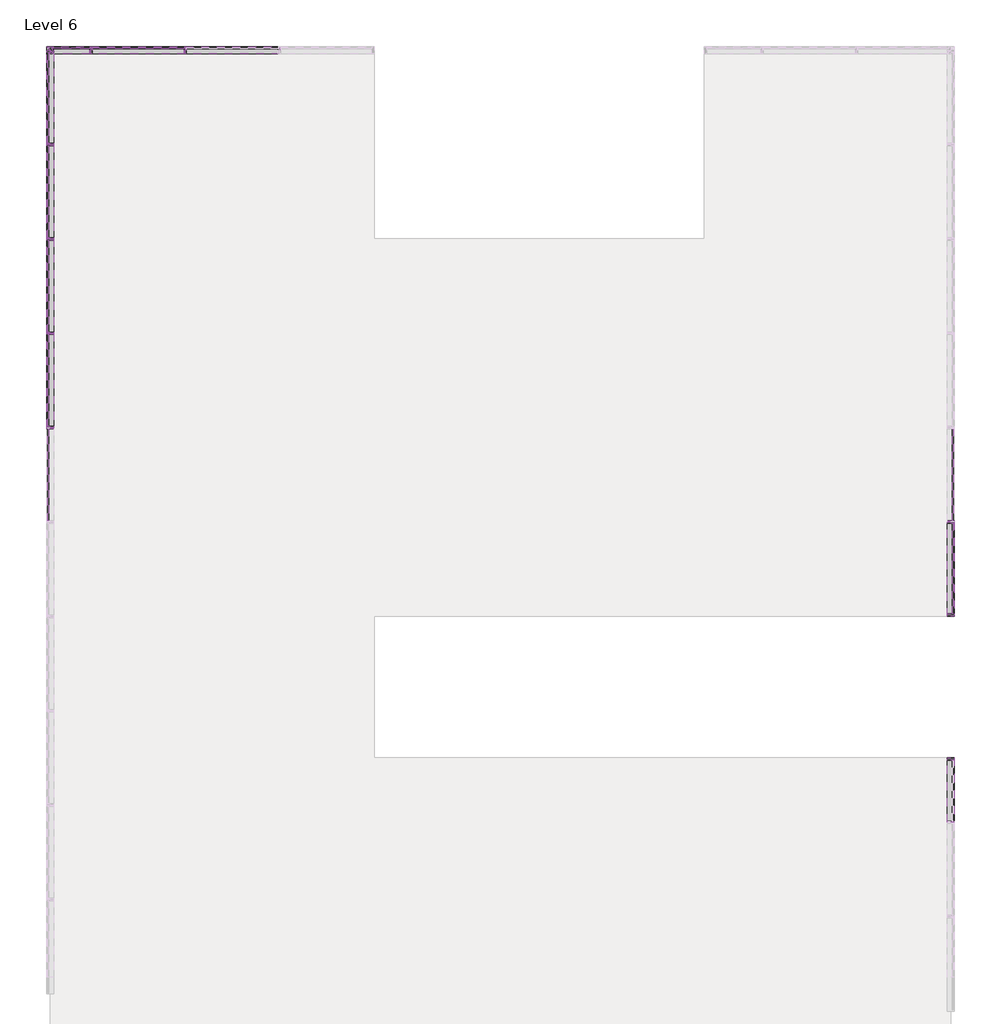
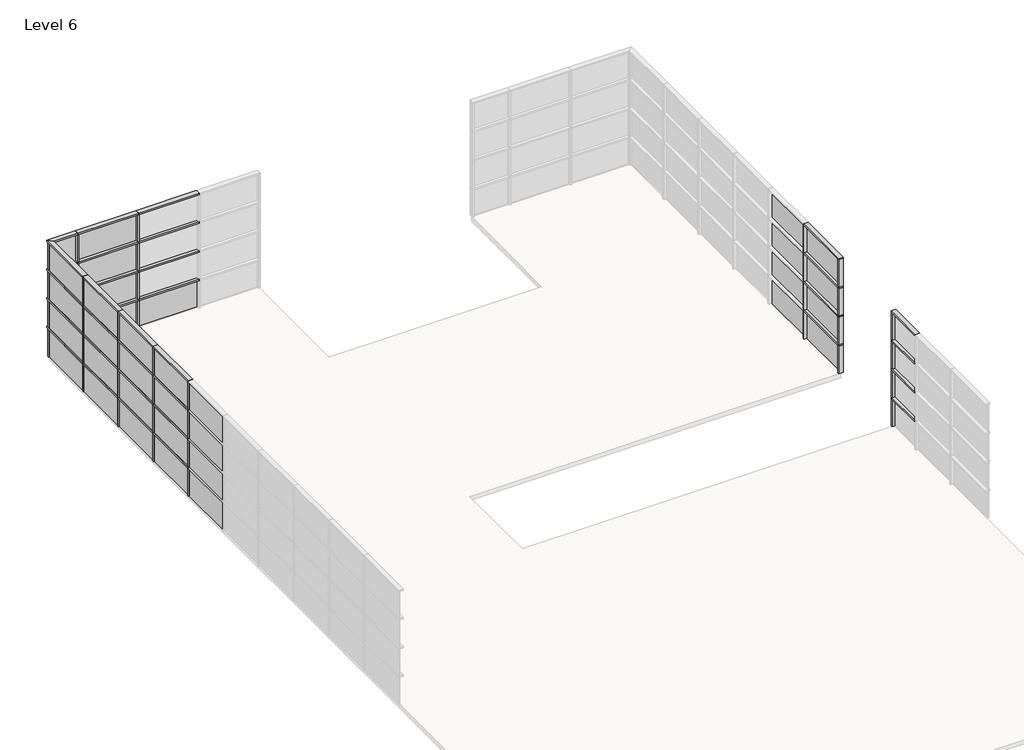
# One storey, part 4 of 5: 80 members, 37 plates.
"""IFC4 building model written with IfcOpenShell, lengths in millimetres."""

from ifc_helpers import new_model, si_unit, origin, place, context, project, spatial, transform, mapped, element, save
from components import rectangular_mullion_50_x_150mm_a053b0ca, rectangular_mullion_50_x_150mm_3a148f0f, rectangular_mullion_50_x_150mm_12a430f9, rectangular_mullion_50_x_150mm_c4a1d10e, rectangular_mullion_50_x_150mm_947845bb, rectangular_mullion_50_x_150mm_5fc4eb71, system_panel_glazed_751a585c, system_panel_glazed_08de6f5f, system_panel_glazed_3868a10e

model = new_model("IFC4")

# Units and contexts
model_context = context("Model", 3, world=origin())
ifc_project = project(units=[si_unit("LENGTHUNIT", "METRE", prefix="MILLI")], contexts=[model_context])

# Site, building, storey
site = spatial("IfcSite", under=ifc_project)
building = spatial("IfcBuilding", under=site)
storey = spatial("IfcBuildingStorey", under=building, Name="Level 6", Elevation=20000.0)

# Members
placement = place(None, origin())
rectangular_mullion_50_x_150mm_shape = rectangular_mullion_50_x_150mm_a053b0ca(model_context)
element("IfcMember", 1, ObjectType="Rectangular Mullion : 50 x 150mm", at=placement, inside=storey, context=model_context, shape_type="MappedRepresentation", body=[
    mapped(rectangular_mullion_50_x_150mm_shape, transform((-5587.173406, 6375.9839566, 20025.0), x_axis=(0.0, -1.0, 0.0), y_axis=(-1.0, 0.0, 0.0), z_axis=(0.0, 0.0, -0.9999999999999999))),
])
element("IfcMember", 2, ObjectType="Rectangular Mullion : 50 x 150mm", at=placement, inside=storey, context=model_context, shape_type="MappedRepresentation", body=[
    mapped(rectangular_mullion_50_x_150mm_shape, transform((-5587.173406, 6375.9839566, 21025.0), x_axis=(0.0, -1.0, 0.0), y_axis=(-1.0, 0.0, 0.0), z_axis=(0.0, 0.0, -0.9999999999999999))),
])
element("IfcMember", 3, ObjectType="Rectangular Mullion : 50 x 150mm", at=placement, inside=storey, context=model_context, shape_type="MappedRepresentation", body=[
    mapped(rectangular_mullion_50_x_150mm_shape, transform((-5587.173406, 6375.9839566, 22025.0), x_axis=(0.0, -1.0, 0.0), y_axis=(-1.0, 0.0, 0.0), z_axis=(0.0, 0.0, -0.9999999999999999))),
])
element("IfcMember", 4, ObjectType="Rectangular Mullion : 50 x 150mm", at=placement, inside=storey, context=model_context, shape_type="MappedRepresentation", body=[
    mapped(rectangular_mullion_50_x_150mm_shape, transform((-5587.173406, 6375.9839566, 23025.0), x_axis=(0.0, -1.0, 0.0), y_axis=(-1.0, 0.0, 0.0), z_axis=(0.0, 0.0, -0.9999999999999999))),
])
element("IfcMember", 5, ObjectType="Rectangular Mullion : 50 x 150mm", at=placement, inside=storey, context=model_context, shape_type="MappedRepresentation", body=[
    mapped(rectangular_mullion_50_x_150mm_shape, transform((-5587.173406, 4375.9839566, 20025.0), x_axis=(0.0, -1.0, 0.0), y_axis=(-1.0, 0.0, 0.0), z_axis=(0.0, 0.0, -0.9999999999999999))),
])
element("IfcMember", 6, ObjectType="Rectangular Mullion : 50 x 150mm", at=placement, inside=storey, context=model_context, shape_type="MappedRepresentation", body=[
    mapped(rectangular_mullion_50_x_150mm_shape, transform((-5587.173406, 4375.9839566, 21025.0), x_axis=(0.0, -1.0, 0.0), y_axis=(-1.0, 0.0, 0.0), z_axis=(0.0, 0.0, -0.9999999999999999))),
])
element("IfcMember", 7, ObjectType="Rectangular Mullion : 50 x 150mm", at=placement, inside=storey, context=model_context, shape_type="MappedRepresentation", body=[
    mapped(rectangular_mullion_50_x_150mm_shape, transform((-5587.173406, 4375.9839566, 22025.0), x_axis=(0.0, -1.0, 0.0), y_axis=(-1.0, 0.0, 0.0), z_axis=(0.0, 0.0, -0.9999999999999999))),
])
element("IfcMember", 8, ObjectType="Rectangular Mullion : 50 x 150mm", at=placement, inside=storey, context=model_context, shape_type="MappedRepresentation", body=[
    mapped(rectangular_mullion_50_x_150mm_shape, transform((-5587.173406, 4375.9839566, 23025.0), x_axis=(0.0, -1.0, 0.0), y_axis=(-1.0, 0.0, 0.0), z_axis=(0.0, 0.0, -0.9999999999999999))),
])
element("IfcMember", 9, ObjectType="Rectangular Mullion : 50 x 150mm", at=placement, inside=storey, context=model_context, shape_type="MappedRepresentation", body=[
    mapped(rectangular_mullion_50_x_150mm_shape, transform((-5587.173406, 2375.9839566, 20025.0), x_axis=(0.0, -1.0, 0.0), y_axis=(-1.0, 0.0, 0.0), z_axis=(0.0, 0.0, -0.9999999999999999))),
])
element("IfcMember", 10, ObjectType="Rectangular Mullion : 50 x 150mm", at=placement, inside=storey, context=model_context, shape_type="MappedRepresentation", body=[
    mapped(rectangular_mullion_50_x_150mm_shape, transform((-5587.173406, 2375.9839566, 21025.0), x_axis=(0.0, -1.0, 0.0), y_axis=(-1.0, 0.0, 0.0), z_axis=(0.0, 0.0, -0.9999999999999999))),
])
element("IfcMember", 11, ObjectType="Rectangular Mullion : 50 x 150mm", at=placement, inside=storey, context=model_context, shape_type="MappedRepresentation", body=[
    mapped(rectangular_mullion_50_x_150mm_shape, transform((-5587.173406, 2375.9839566, 22025.0), x_axis=(0.0, -1.0, 0.0), y_axis=(-1.0, 0.0, 0.0), z_axis=(0.0, 0.0, -0.9999999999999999))),
])
element("IfcMember", 12, ObjectType="Rectangular Mullion : 50 x 150mm", at=placement, inside=storey, context=model_context, shape_type="MappedRepresentation", body=[
    mapped(rectangular_mullion_50_x_150mm_shape, transform((-5587.173406, 2375.9839566, 23025.0), x_axis=(0.0, -1.0, 0.0), y_axis=(-1.0, 0.0, 0.0), z_axis=(0.0, 0.0, -0.9999999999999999))),
])
element("IfcMember", 13, ObjectType="Rectangular Mullion : 50 x 150mm", at=placement, inside=storey, context=model_context, shape_type="MappedRepresentation", body=[
    mapped(rectangular_mullion_50_x_150mm_shape, transform((-5587.173406, 375.9839566, 20025.0), x_axis=(0.0, -1.0, 0.0), y_axis=(-1.0, 0.0, 0.0), z_axis=(0.0, 0.0, -0.9999999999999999))),
])
element("IfcMember", 14, ObjectType="Rectangular Mullion : 50 x 150mm", at=placement, inside=storey, context=model_context, shape_type="MappedRepresentation", body=[
    mapped(rectangular_mullion_50_x_150mm_shape, transform((-5587.173406, 375.9839566, 21025.0), x_axis=(0.0, -1.0, 0.0), y_axis=(-1.0, 0.0, 0.0), z_axis=(0.0, 0.0, -0.9999999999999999))),
])
element("IfcMember", 15, ObjectType="Rectangular Mullion : 50 x 150mm", at=placement, inside=storey, context=model_context, shape_type="MappedRepresentation", body=[
    mapped(rectangular_mullion_50_x_150mm_shape, transform((-5587.173406, 375.9839566, 22025.0), x_axis=(0.0, -1.0, 0.0), y_axis=(-1.0, 0.0, 0.0), z_axis=(0.0, 0.0, -0.9999999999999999))),
])
element("IfcMember", 16, ObjectType="Rectangular Mullion : 50 x 150mm", at=placement, inside=storey, context=model_context, shape_type="MappedRepresentation", body=[
    mapped(rectangular_mullion_50_x_150mm_shape, transform((-5587.173406, 375.9839566, 23025.0), x_axis=(0.0, -1.0, 0.0), y_axis=(-1.0, 0.0, 0.0), z_axis=(0.0, 0.0, -0.9999999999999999))),
])
element("IfcMember", 17, ObjectType="Rectangular Mullion : 50 x 150mm", at=placement, inside=storey, context=model_context, shape_type="MappedRepresentation", body=[
    mapped(rectangular_mullion_50_x_150mm_shape, transform((-4721.580781, 8375.9839566, 20025.0), x_axis=(-1.0, 0.0, 0.0), y_axis=(0.0, 1.0, 0.0), z_axis=(0.0, 0.0, -0.9999999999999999))),
])
element("IfcMember", 18, ObjectType="Rectangular Mullion : 50 x 150mm", at=placement, inside=storey, context=model_context, shape_type="MappedRepresentation", body=[
    mapped(rectangular_mullion_50_x_150mm_shape, transform((-4721.580781, 8375.9839566, 21025.0), x_axis=(-1.0, 0.0, 0.0), y_axis=(0.0, 1.0, 0.0), z_axis=(0.0, 0.0, -0.9999999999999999))),
])
element("IfcMember", 19, ObjectType="Rectangular Mullion : 50 x 150mm", at=placement, inside=storey, context=model_context, shape_type="MappedRepresentation", body=[
    mapped(rectangular_mullion_50_x_150mm_shape, transform((-4721.580781, 8375.9839566, 22025.0), x_axis=(-1.0, 0.0, 0.0), y_axis=(0.0, 1.0, 0.0), z_axis=(0.0, 0.0, -0.9999999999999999))),
])
element("IfcMember", 20, ObjectType="Rectangular Mullion : 50 x 150mm", at=placement, inside=storey, context=model_context, shape_type="MappedRepresentation", body=[
    mapped(rectangular_mullion_50_x_150mm_shape, transform((-4721.580781, 8375.9839566, 23025.0), x_axis=(-1.0, 0.0, 0.0), y_axis=(0.0, 1.0, 0.0), z_axis=(0.0, 0.0, -0.9999999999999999))),
])
element("IfcMember", 21, ObjectType="Rectangular Mullion : 50 x 150mm", at=placement, inside=storey, context=model_context, shape_type="MappedRepresentation", body=[
    mapped(rectangular_mullion_50_x_150mm_shape, transform((-2721.580781, 8375.9839566, 20025.0), x_axis=(-1.0, 0.0, 0.0), y_axis=(0.0, 1.0, 0.0), z_axis=(0.0, 0.0, -0.9999999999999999))),
])
element("IfcMember", 22, ObjectType="Rectangular Mullion : 50 x 150mm", at=placement, inside=storey, context=model_context, shape_type="MappedRepresentation", body=[
    mapped(rectangular_mullion_50_x_150mm_shape, transform((-2721.580781, 8375.9839566, 21025.0), x_axis=(-1.0, 0.0, 0.0), y_axis=(0.0, 1.0, 0.0), z_axis=(0.0, 0.0, -0.9999999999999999))),
])
element("IfcMember", 23, ObjectType="Rectangular Mullion : 50 x 150mm", at=placement, inside=storey, context=model_context, shape_type="MappedRepresentation", body=[
    mapped(rectangular_mullion_50_x_150mm_shape, transform((-2721.580781, 8375.9839566, 22025.0), x_axis=(-1.0, 0.0, 0.0), y_axis=(0.0, 1.0, 0.0), z_axis=(0.0, 0.0, -0.9999999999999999))),
])
element("IfcMember", 24, ObjectType="Rectangular Mullion : 50 x 150mm", at=placement, inside=storey, context=model_context, shape_type="MappedRepresentation", body=[
    mapped(rectangular_mullion_50_x_150mm_shape, transform((-2721.580781, 8375.9839566, 23025.0), x_axis=(-1.0, 0.0, 0.0), y_axis=(0.0, 1.0, 0.0), z_axis=(0.0, 0.0, -0.9999999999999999))),
])
element("IfcMember", 25, ObjectType="Rectangular Mullion : 50 x 150mm", at=placement, inside=storey, context=model_context, shape_type="MappedRepresentation", body=[
    mapped(rectangular_mullion_50_x_150mm_shape, transform((13503.2660975, -1624.0160434, 20025.0), x_axis=(0.0, 1.0, 0.0), y_axis=(1.0, 0.0, 0.0), z_axis=(0.0, 0.0, -0.9999999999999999))),
])
element("IfcMember", 26, ObjectType="Rectangular Mullion : 50 x 150mm", at=placement, inside=storey, context=model_context, shape_type="MappedRepresentation", body=[
    mapped(rectangular_mullion_50_x_150mm_shape, transform((13503.2660975, -1624.0160434, 21025.0), x_axis=(0.0, 1.0, 0.0), y_axis=(1.0, 0.0, 0.0), z_axis=(0.0, 0.0, -0.9999999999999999))),
])
element("IfcMember", 27, ObjectType="Rectangular Mullion : 50 x 150mm", at=placement, inside=storey, context=model_context, shape_type="MappedRepresentation", body=[
    mapped(rectangular_mullion_50_x_150mm_shape, transform((13503.2660975, -1624.0160434, 22025.0), x_axis=(0.0, 1.0, 0.0), y_axis=(1.0, 0.0, 0.0), z_axis=(0.0, 0.0, -0.9999999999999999))),
])
element("IfcMember", 28, ObjectType="Rectangular Mullion : 50 x 150mm", at=placement, inside=storey, context=model_context, shape_type="MappedRepresentation", body=[
    mapped(rectangular_mullion_50_x_150mm_shape, transform((13503.2660975, -1624.0160434, 23025.0), x_axis=(0.0, 1.0, 0.0), y_axis=(1.0, 0.0, 0.0), z_axis=(0.0, 0.0, -0.9999999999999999))),
])
rectangular_mullion_50_x_150mm_2_shape = rectangular_mullion_50_x_150mm_3a148f0f(model_context)
element("IfcMember", 29, ObjectType="Rectangular Mullion : 50 x 150mm", at=placement, inside=storey, context=model_context, shape_type="MappedRepresentation", body=[
    mapped(rectangular_mullion_50_x_150mm_2_shape, transform((13503.2660975, -1624.0160434, 21000.0), x_axis=(0.0, 0.0, 1.0), y_axis=(1.0, 0.0, 0.0), z_axis=(0.0, 0.9999999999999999, 0.0))),
])
element("IfcMember", 30, ObjectType="Rectangular Mullion : 50 x 150mm", at=placement, inside=storey, context=model_context, shape_type="MappedRepresentation", body=[
    mapped(rectangular_mullion_50_x_150mm_2_shape, transform((13503.2660975, -1624.0160434, 22000.0), x_axis=(0.0, 0.0, 1.0), y_axis=(1.0, 0.0, 0.0), z_axis=(0.0, 0.9999999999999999, 0.0))),
])
element("IfcMember", 31, ObjectType="Rectangular Mullion : 50 x 150mm", at=placement, inside=storey, context=model_context, shape_type="MappedRepresentation", body=[
    mapped(rectangular_mullion_50_x_150mm_2_shape, transform((13503.2660975, -1624.0160434, 23000.0), x_axis=(0.0, 0.0, 1.0), y_axis=(1.0, 0.0, 0.0), z_axis=(0.0, 1.0, 0.0))),
])
element("IfcMember", 32, ObjectType="Rectangular Mullion : 50 x 150mm", at=placement, inside=storey, context=model_context, shape_type="MappedRepresentation", body=[
    mapped(rectangular_mullion_50_x_150mm_2_shape, transform((13503.2660975, -1624.0160434, 24000.0), x_axis=(0.0, 0.0, 1.0), y_axis=(1.0, 0.0, 0.0), z_axis=(0.0, 1.0, 0.0))),
])
element("IfcMember", 33, ObjectType="Rectangular Mullion : 50 x 150mm", at=placement, inside=storey, context=model_context, shape_type="MappedRepresentation", body=[
    mapped(rectangular_mullion_50_x_150mm_2_shape, transform((-5587.173406, 4375.9839566, 21000.0), x_axis=(0.0, 0.0, 1.0), y_axis=(-1.0, 0.0, 0.0), z_axis=(0.0, -1.0, 0.0))),
])
element("IfcMember", 34, ObjectType="Rectangular Mullion : 50 x 150mm", at=placement, inside=storey, context=model_context, shape_type="MappedRepresentation", body=[
    mapped(rectangular_mullion_50_x_150mm_2_shape, transform((-5587.173406, 2375.9839566, 21000.0), x_axis=(0.0, 0.0, 1.0), y_axis=(-1.0, 0.0, 0.0), z_axis=(0.0, -1.0, 0.0))),
])
element("IfcMember", 35, ObjectType="Rectangular Mullion : 50 x 150mm", at=placement, inside=storey, context=model_context, shape_type="MappedRepresentation", body=[
    mapped(rectangular_mullion_50_x_150mm_2_shape, transform((-5587.173406, 375.9839566, 21000.0), x_axis=(0.0, 0.0, 1.0), y_axis=(-1.0, 0.0, 0.0), z_axis=(0.0, -1.0, 0.0))),
])
element("IfcMember", 36, ObjectType="Rectangular Mullion : 50 x 150mm", at=placement, inside=storey, context=model_context, shape_type="MappedRepresentation", body=[
    mapped(rectangular_mullion_50_x_150mm_2_shape, transform((-5587.173406, 4375.9839566, 22000.0), x_axis=(0.0, 0.0, 1.0), y_axis=(-1.0, 0.0, 0.0), z_axis=(0.0, -1.0, 0.0))),
])
element("IfcMember", 37, ObjectType="Rectangular Mullion : 50 x 150mm", at=placement, inside=storey, context=model_context, shape_type="MappedRepresentation", body=[
    mapped(rectangular_mullion_50_x_150mm_2_shape, transform((-5587.173406, 2375.9839566, 22000.0), x_axis=(0.0, 0.0, 1.0), y_axis=(-1.0, 0.0, 0.0), z_axis=(0.0, -1.0, 0.0))),
])
element("IfcMember", 38, ObjectType="Rectangular Mullion : 50 x 150mm", at=placement, inside=storey, context=model_context, shape_type="MappedRepresentation", body=[
    mapped(rectangular_mullion_50_x_150mm_2_shape, transform((-5587.173406, 375.9839566, 22000.0), x_axis=(0.0, 0.0, 1.0), y_axis=(-1.0, 0.0, 0.0), z_axis=(0.0, -1.0, 0.0))),
])
element("IfcMember", 39, ObjectType="Rectangular Mullion : 50 x 150mm", at=placement, inside=storey, context=model_context, shape_type="MappedRepresentation", body=[
    mapped(rectangular_mullion_50_x_150mm_2_shape, transform((-5587.173406, 4375.9839566, 23000.0), x_axis=(0.0, 0.0, 1.0), y_axis=(-1.0, 0.0, 0.0), z_axis=(0.0, -1.0, 0.0))),
])
element("IfcMember", 40, ObjectType="Rectangular Mullion : 50 x 150mm", at=placement, inside=storey, context=model_context, shape_type="MappedRepresentation", body=[
    mapped(rectangular_mullion_50_x_150mm_2_shape, transform((-5587.173406, 2375.9839566, 23000.0), x_axis=(0.0, 0.0, 1.0), y_axis=(-1.0, 0.0, 0.0), z_axis=(0.0, -1.0, 0.0))),
])
element("IfcMember", 41, ObjectType="Rectangular Mullion : 50 x 150mm", at=placement, inside=storey, context=model_context, shape_type="MappedRepresentation", body=[
    mapped(rectangular_mullion_50_x_150mm_2_shape, transform((-5587.173406, 375.9839566, 23000.0), x_axis=(0.0, 0.0, 1.0), y_axis=(-1.0, 0.0, 0.0), z_axis=(0.0, -1.0, 0.0))),
])
element("IfcMember", 42, ObjectType="Rectangular Mullion : 50 x 150mm", at=placement, inside=storey, context=model_context, shape_type="MappedRepresentation", body=[
    mapped(rectangular_mullion_50_x_150mm_2_shape, transform((-5587.173406, 4375.9839566, 24000.0), x_axis=(0.0, 0.0, 1.0), y_axis=(-1.0, 0.0, 0.0), z_axis=(0.0, -1.0, 0.0))),
])
element("IfcMember", 43, ObjectType="Rectangular Mullion : 50 x 150mm", at=placement, inside=storey, context=model_context, shape_type="MappedRepresentation", body=[
    mapped(rectangular_mullion_50_x_150mm_2_shape, transform((-5587.173406, 2375.9839566, 24000.0), x_axis=(0.0, 0.0, 1.0), y_axis=(-1.0, 0.0, 0.0), z_axis=(0.0, -1.0, 0.0))),
])
element("IfcMember", 44, ObjectType="Rectangular Mullion : 50 x 150mm", at=placement, inside=storey, context=model_context, shape_type="MappedRepresentation", body=[
    mapped(rectangular_mullion_50_x_150mm_2_shape, transform((-5587.173406, 375.9839566, 24000.0), x_axis=(0.0, 0.0, 1.0), y_axis=(-1.0, 0.0, 0.0), z_axis=(0.0, -1.0, 0.0))),
])
element("IfcMember", 45, ObjectType="Rectangular Mullion : 50 x 150mm", at=placement, inside=storey, context=model_context, shape_type="MappedRepresentation", body=[
    mapped(rectangular_mullion_50_x_150mm_2_shape, transform((-2721.580781, 8375.9839566, 21000.0), x_axis=(0.0, 0.0, 1.0), y_axis=(0.0, 1.0, 0.0), z_axis=(-1.0, 0.0, 0.0))),
])
element("IfcMember", 46, ObjectType="Rectangular Mullion : 50 x 150mm", at=placement, inside=storey, context=model_context, shape_type="MappedRepresentation", body=[
    mapped(rectangular_mullion_50_x_150mm_2_shape, transform((-4721.580781, 8375.9839566, 21000.0), x_axis=(0.0, 0.0, 1.0), y_axis=(0.0, 1.0, 0.0), z_axis=(-1.0, 0.0, 0.0))),
])
element("IfcMember", 47, ObjectType="Rectangular Mullion : 50 x 150mm", at=placement, inside=storey, context=model_context, shape_type="MappedRepresentation", body=[
    mapped(rectangular_mullion_50_x_150mm_2_shape, transform((-2721.580781, 8375.9839566, 22000.0), x_axis=(0.0, 0.0, 1.0), y_axis=(0.0, 1.0, 0.0), z_axis=(-1.0, 0.0, 0.0))),
])
element("IfcMember", 48, ObjectType="Rectangular Mullion : 50 x 150mm", at=placement, inside=storey, context=model_context, shape_type="MappedRepresentation", body=[
    mapped(rectangular_mullion_50_x_150mm_2_shape, transform((-4721.580781, 8375.9839566, 22000.0), x_axis=(0.0, 0.0, 1.0), y_axis=(0.0, 1.0, 0.0), z_axis=(-1.0, 0.0, 0.0))),
])
element("IfcMember", 49, ObjectType="Rectangular Mullion : 50 x 150mm", at=placement, inside=storey, context=model_context, shape_type="MappedRepresentation", body=[
    mapped(rectangular_mullion_50_x_150mm_2_shape, transform((-2721.580781, 8375.9839566, 23000.0), x_axis=(0.0, 0.0, 1.0), y_axis=(0.0, 1.0, 0.0), z_axis=(-1.0, 0.0, 0.0))),
])
element("IfcMember", 50, ObjectType="Rectangular Mullion : 50 x 150mm", at=placement, inside=storey, context=model_context, shape_type="MappedRepresentation", body=[
    mapped(rectangular_mullion_50_x_150mm_2_shape, transform((-4721.580781, 8375.9839566, 23000.0), x_axis=(0.0, 0.0, 1.0), y_axis=(0.0, 1.0, 0.0), z_axis=(-1.0, 0.0, 0.0))),
])
element("IfcMember", 51, ObjectType="Rectangular Mullion : 50 x 150mm", at=placement, inside=storey, context=model_context, shape_type="MappedRepresentation", body=[
    mapped(rectangular_mullion_50_x_150mm_2_shape, transform((-2721.580781, 8375.9839566, 24000.0), x_axis=(0.0, 0.0, 1.0), y_axis=(0.0, 1.0, 0.0), z_axis=(-1.0, 0.0, 0.0))),
])
element("IfcMember", 52, ObjectType="Rectangular Mullion : 50 x 150mm", at=placement, inside=storey, context=model_context, shape_type="MappedRepresentation", body=[
    mapped(rectangular_mullion_50_x_150mm_2_shape, transform((-4721.580781, 8375.9839566, 24000.0), x_axis=(0.0, 0.0, 1.0), y_axis=(0.0, 1.0, 0.0), z_axis=(-1.0, 0.0, 0.0))),
])
rectangular_mullion_50_x_150mm_3_shape = rectangular_mullion_50_x_150mm_12a430f9(model_context)
element("IfcMember", 53, ObjectType="Rectangular Mullion : 50 x 150mm", at=placement, inside=storey, context=model_context, shape_type="MappedRepresentation", body=[
    mapped(rectangular_mullion_50_x_150mm_3_shape, transform((-5587.173406, 8375.9839566, 20975.0), x_axis=(0.0, 1.0, 0.0), y_axis=(-1.0, 0.0, 0.0), z_axis=(0.0, 0.0, 0.9999999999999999))),
])
element("IfcMember", 54, ObjectType="Rectangular Mullion : 50 x 150mm", at=placement, inside=storey, context=model_context, shape_type="MappedRepresentation", body=[
    mapped(rectangular_mullion_50_x_150mm_3_shape, transform((-5587.173406, 8375.9839566, 21975.0), x_axis=(0.0, 1.0, 0.0), y_axis=(-1.0, 0.0, 0.0), z_axis=(0.0, 0.0, 0.9999999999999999))),
])
element("IfcMember", 55, ObjectType="Rectangular Mullion : 50 x 150mm", at=placement, inside=storey, context=model_context, shape_type="MappedRepresentation", body=[
    mapped(rectangular_mullion_50_x_150mm_3_shape, transform((-5587.173406, 8375.9839566, 22975.0), x_axis=(0.0, 1.0, 0.0), y_axis=(-1.0, 0.0, 0.0), z_axis=(0.0, 0.0, 0.9999999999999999))),
])
element("IfcMember", 56, ObjectType="Rectangular Mullion : 50 x 150mm", at=placement, inside=storey, context=model_context, shape_type="MappedRepresentation", body=[
    mapped(rectangular_mullion_50_x_150mm_3_shape, transform((-5587.173406, 8375.9839566, 23975.0), x_axis=(0.0, 1.0, 0.0), y_axis=(-1.0, 0.0, 0.0), z_axis=(0.0, 0.0, 0.9999999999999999))),
])
element("IfcMember", 57, ObjectType="Rectangular Mullion : 50 x 150mm", at=placement, inside=storey, context=model_context, shape_type="MappedRepresentation", body=[
    mapped(rectangular_mullion_50_x_150mm_3_shape, transform((13503.2660975, -3624.0160434, 20975.0), x_axis=(0.0, -1.0, 0.0), y_axis=(1.0, 0.0, 0.0), z_axis=(0.0, 0.0, 0.9999999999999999))),
])
element("IfcMember", 58, ObjectType="Rectangular Mullion : 50 x 150mm", at=placement, inside=storey, context=model_context, shape_type="MappedRepresentation", body=[
    mapped(rectangular_mullion_50_x_150mm_3_shape, transform((13503.2660975, -3624.0160434, 21975.0), x_axis=(0.0, -1.0, 0.0), y_axis=(1.0, 0.0, 0.0), z_axis=(0.0, 0.0, 0.9999999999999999))),
])
element("IfcMember", 59, ObjectType="Rectangular Mullion : 50 x 150mm", at=placement, inside=storey, context=model_context, shape_type="MappedRepresentation", body=[
    mapped(rectangular_mullion_50_x_150mm_3_shape, transform((13503.2660975, -3624.0160434, 22975.0), x_axis=(0.0, -1.0, 0.0), y_axis=(1.0, 0.0, 0.0), z_axis=(0.0, 0.0, 0.9999999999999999))),
])
element("IfcMember", 60, ObjectType="Rectangular Mullion : 50 x 150mm", at=placement, inside=storey, context=model_context, shape_type="MappedRepresentation", body=[
    mapped(rectangular_mullion_50_x_150mm_3_shape, transform((13503.2660975, -3624.0160434, 23975.0), x_axis=(0.0, -1.0, 0.0), y_axis=(1.0, 0.0, 0.0), z_axis=(0.0, 0.0, 0.9999999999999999))),
])
element("IfcMember", 61, ObjectType="Rectangular Mullion : 50 x 150mm", at=placement, inside=storey, context=model_context, shape_type="MappedRepresentation", body=[
    mapped(rectangular_mullion_50_x_150mm_3_shape, transform((-5587.173406, 8375.9839566, 20025.0), x_axis=(-1.0, 0.0, 0.0), y_axis=(0.0, 1.0, 0.0), z_axis=(0.0, 0.0, -0.9999999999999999))),
])
element("IfcMember", 62, ObjectType="Rectangular Mullion : 50 x 150mm", at=placement, inside=storey, context=model_context, shape_type="MappedRepresentation", body=[
    mapped(rectangular_mullion_50_x_150mm_3_shape, transform((-5587.173406, 8375.9839566, 21025.0), x_axis=(-1.0, 0.0, 0.0), y_axis=(0.0, 1.0, 0.0), z_axis=(0.0, 0.0, -0.9999999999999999))),
])
element("IfcMember", 63, ObjectType="Rectangular Mullion : 50 x 150mm", at=placement, inside=storey, context=model_context, shape_type="MappedRepresentation", body=[
    mapped(rectangular_mullion_50_x_150mm_3_shape, transform((-5587.173406, 8375.9839566, 22025.0), x_axis=(-1.0, 0.0, 0.0), y_axis=(0.0, 1.0, 0.0), z_axis=(0.0, 0.0, -0.9999999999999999))),
])
element("IfcMember", 64, ObjectType="Rectangular Mullion : 50 x 150mm", at=placement, inside=storey, context=model_context, shape_type="MappedRepresentation", body=[
    mapped(rectangular_mullion_50_x_150mm_3_shape, transform((-5587.173406, 8375.9839566, 23025.0), x_axis=(-1.0, 0.0, 0.0), y_axis=(0.0, 1.0, 0.0), z_axis=(0.0, 0.0, -0.9999999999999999))),
])
element("IfcMember", 65, ObjectType="Rectangular Mullion : 50 x 150mm", at=placement, inside=storey, context=model_context, shape_type="MappedRepresentation", body=[
    mapped(rectangular_mullion_50_x_150mm_3_shape, transform((13503.2660975, -6624.0160434, 20025.0), x_axis=(0.0, 1.0, 0.0), y_axis=(1.0, 0.0, 0.0), z_axis=(0.0, 0.0, -0.9999999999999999))),
])
element("IfcMember", 66, ObjectType="Rectangular Mullion : 50 x 150mm", at=placement, inside=storey, context=model_context, shape_type="MappedRepresentation", body=[
    mapped(rectangular_mullion_50_x_150mm_3_shape, transform((13503.2660975, -6624.0160434, 21025.0), x_axis=(0.0, 1.0, 0.0), y_axis=(1.0, 0.0, 0.0), z_axis=(0.0, 0.0, -0.9999999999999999))),
])
element("IfcMember", 67, ObjectType="Rectangular Mullion : 50 x 150mm", at=placement, inside=storey, context=model_context, shape_type="MappedRepresentation", body=[
    mapped(rectangular_mullion_50_x_150mm_3_shape, transform((13503.2660975, -6624.0160434, 22025.0), x_axis=(0.0, 1.0, 0.0), y_axis=(1.0, 0.0, 0.0), z_axis=(0.0, 0.0, -0.9999999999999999))),
])
element("IfcMember", 68, ObjectType="Rectangular Mullion : 50 x 150mm", at=placement, inside=storey, context=model_context, shape_type="MappedRepresentation", body=[
    mapped(rectangular_mullion_50_x_150mm_3_shape, transform((13503.2660975, -6624.0160434, 23025.0), x_axis=(0.0, 1.0, 0.0), y_axis=(1.0, 0.0, 0.0), z_axis=(0.0, 0.0, -0.9999999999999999))),
])
rectangular_mullion_50_x_150mm_4_shape = rectangular_mullion_50_x_150mm_c4a1d10e(model_context)
element("IfcMember", 69, ObjectType="Rectangular Mullion : 50 x 150mm", at=placement, inside=storey, context=model_context, shape_type="MappedRepresentation", body=[
    mapped(rectangular_mullion_50_x_150mm_4_shape, transform((-5587.173406, 8375.9839566, 21000.0), x_axis=(0.0, 0.0, 1.0), y_axis=(0.0, 1.0, 0.0), z_axis=(-1.0, 0.0, 0.0))),
])
element("IfcMember", 70, ObjectType="Rectangular Mullion : 50 x 150mm", at=placement, inside=storey, context=model_context, shape_type="MappedRepresentation", body=[
    mapped(rectangular_mullion_50_x_150mm_4_shape, transform((-5587.173406, 8375.9839566, 22000.0), x_axis=(0.0, 0.0, 1.0), y_axis=(0.0, 1.0, 0.0), z_axis=(-1.0, 0.0, 0.0))),
])
element("IfcMember", 71, ObjectType="Rectangular Mullion : 50 x 150mm", at=placement, inside=storey, context=model_context, shape_type="MappedRepresentation", body=[
    mapped(rectangular_mullion_50_x_150mm_4_shape, transform((-5587.173406, 8375.9839566, 23000.0), x_axis=(0.0, 0.0, 1.0), y_axis=(0.0, 1.0, 0.0), z_axis=(-1.0, 0.0, 0.0))),
])
element("IfcMember", 72, ObjectType="Rectangular Mullion : 50 x 150mm", at=placement, inside=storey, context=model_context, shape_type="MappedRepresentation", body=[
    mapped(rectangular_mullion_50_x_150mm_4_shape, transform((-5587.173406, 8375.9839566, 24000.0), x_axis=(0.0, 0.0, 1.0), y_axis=(0.0, 1.0, 0.0), z_axis=(-1.0, 0.0, 0.0))),
])
rectangular_mullion_50_x_150mm_5_shape = rectangular_mullion_50_x_150mm_947845bb(model_context)
element("IfcMember", 73, ObjectType="Rectangular Mullion : 50 x 150mm", at=placement, inside=storey, context=model_context, shape_type="MappedRepresentation", body=[
    mapped(rectangular_mullion_50_x_150mm_5_shape, transform((-5587.173406, 6375.9839566, 21000.0), x_axis=(0.0, 0.0, 1.0), y_axis=(-1.0, 0.0, 0.0), z_axis=(0.0, -1.0, 0.0))),
])
element("IfcMember", 74, ObjectType="Rectangular Mullion : 50 x 150mm", at=placement, inside=storey, context=model_context, shape_type="MappedRepresentation", body=[
    mapped(rectangular_mullion_50_x_150mm_5_shape, transform((-5587.173406, 6375.9839566, 22000.0), x_axis=(0.0, 0.0, 1.0), y_axis=(-1.0, 0.0, 0.0), z_axis=(0.0, -1.0, 0.0))),
])
element("IfcMember", 75, ObjectType="Rectangular Mullion : 50 x 150mm", at=placement, inside=storey, context=model_context, shape_type="MappedRepresentation", body=[
    mapped(rectangular_mullion_50_x_150mm_5_shape, transform((-5587.173406, 6375.9839566, 23000.0), x_axis=(0.0, 0.0, 1.0), y_axis=(-1.0, 0.0, 0.0), z_axis=(0.0, -1.0, 0.0))),
])
element("IfcMember", 76, ObjectType="Rectangular Mullion : 50 x 150mm", at=placement, inside=storey, context=model_context, shape_type="MappedRepresentation", body=[
    mapped(rectangular_mullion_50_x_150mm_5_shape, transform((-5587.173406, 6375.9839566, 24000.0), x_axis=(0.0, 0.0, 1.0), y_axis=(-1.0, 0.0, 0.0), z_axis=(0.0, -1.0, 0.0))),
])
rectangular_mullion_50_x_150mm_6_shape = rectangular_mullion_50_x_150mm_5fc4eb71(model_context)
element("IfcMember", 77, ObjectType="Rectangular Mullion : 50 x 150mm", at=placement, inside=storey, context=model_context, shape_type="MappedRepresentation", body=[
    mapped(rectangular_mullion_50_x_150mm_6_shape, transform((13503.2660975, -6624.0160434, 21000.0), x_axis=(0.0, 0.0, 1.0), y_axis=(1.0, 0.0, 0.0), z_axis=(0.0, 1.0, 0.0))),
])
element("IfcMember", 78, ObjectType="Rectangular Mullion : 50 x 150mm", at=placement, inside=storey, context=model_context, shape_type="MappedRepresentation", body=[
    mapped(rectangular_mullion_50_x_150mm_6_shape, transform((13503.2660975, -6624.0160434, 22000.0), x_axis=(0.0, 0.0, 1.0), y_axis=(1.0, 0.0, 0.0), z_axis=(0.0, 1.0, 0.0))),
])
element("IfcMember", 79, ObjectType="Rectangular Mullion : 50 x 150mm", at=placement, inside=storey, context=model_context, shape_type="MappedRepresentation", body=[
    mapped(rectangular_mullion_50_x_150mm_6_shape, transform((13503.2660975, -6624.0160434, 23000.0), x_axis=(0.0, 0.0, 1.0), y_axis=(1.0, 0.0, 0.0), z_axis=(0.0, 1.0, 0.0))),
])
element("IfcMember", 80, ObjectType="Rectangular Mullion : 50 x 150mm", at=placement, inside=storey, context=model_context, shape_type="MappedRepresentation", body=[
    mapped(rectangular_mullion_50_x_150mm_6_shape, transform((13503.2660975, -6624.0160434, 24000.0), x_axis=(0.0, 0.0, 1.0), y_axis=(1.0, 0.0, 0.0), z_axis=(0.0, 1.0, 0.0))),
])

# Plates
system_panel_glazed_shape = system_panel_glazed_751a585c(model_context)
element("IfcPlate", 81, ObjectType="System Panel : Glazed", at=placement, inside=storey, context=model_context, shape_type="MappedRepresentation", body=[
    mapped(system_panel_glazed_shape, transform((-5587.173406, 8325.9839566, 20500.0), x_axis=(0.0, 0.0, 1.0), y_axis=(-1.0, 0.0, 0.0), z_axis=(0.0, -1.0, 0.0))),
])
element("IfcPlate", 82, ObjectType="System Panel : Glazed", at=placement, inside=storey, context=model_context, shape_type="MappedRepresentation", body=[
    mapped(system_panel_glazed_shape, transform((-5587.173406, 8325.9839566, 21500.0), x_axis=(0.0, 0.0, 1.0), y_axis=(-1.0, 0.0, 0.0), z_axis=(0.0, -1.0, 0.0))),
])
element("IfcPlate", 83, ObjectType="System Panel : Glazed", at=placement, inside=storey, context=model_context, shape_type="MappedRepresentation", body=[
    mapped(system_panel_glazed_shape, transform((13503.2660975, -3574.0160434, 20500.0), x_axis=(0.0, 0.0, 1.0), y_axis=(1.0, 0.0, 0.0), z_axis=(0.0, 1.0, 0.0))),
])
element("IfcPlate", 84, ObjectType="System Panel : Glazed", at=placement, inside=storey, context=model_context, shape_type="MappedRepresentation", body=[
    mapped(system_panel_glazed_shape, transform((13503.2660975, -3574.0160434, 21500.0), x_axis=(0.0, 0.0, 1.0), y_axis=(1.0, 0.0, 0.0), z_axis=(0.0, 1.0, 0.0))),
])
element("IfcPlate", 85, ObjectType="System Panel : Glazed", at=placement, inside=storey, context=model_context, shape_type="MappedRepresentation", body=[
    mapped(system_panel_glazed_shape, transform((-5587.173406, 8325.9839566, 22500.0), x_axis=(0.0, 0.0, 1.0), y_axis=(-1.0, 0.0, 0.0), z_axis=(0.0, -1.0, 0.0))),
])
element("IfcPlate", 86, ObjectType="System Panel : Glazed", at=placement, inside=storey, context=model_context, shape_type="MappedRepresentation", body=[
    mapped(system_panel_glazed_shape, transform((-5587.173406, 8325.9839566, 23500.0), x_axis=(0.0, 0.0, 1.0), y_axis=(-1.0, 0.0, 0.0), z_axis=(0.0, -1.0, 0.0))),
])
element("IfcPlate", 87, ObjectType="System Panel : Glazed", at=placement, inside=storey, context=model_context, shape_type="MappedRepresentation", body=[
    mapped(system_panel_glazed_shape, transform((13503.2660975, -3574.0160434, 22500.0), x_axis=(0.0, 0.0, 1.0), y_axis=(1.0, 0.0, 0.0), z_axis=(0.0, 1.0, 0.0))),
])
element("IfcPlate", 88, ObjectType="System Panel : Glazed", at=placement, inside=storey, context=model_context, shape_type="MappedRepresentation", body=[
    mapped(system_panel_glazed_shape, transform((13503.2660975, -3574.0160434, 23500.0), x_axis=(0.0, 0.0, 1.0), y_axis=(1.0, 0.0, 0.0), z_axis=(0.0, 1.0, 0.0))),
])
system_panel_glazed_2_shape = system_panel_glazed_08de6f5f(model_context)
element("IfcPlate", 89, ObjectType="System Panel : Glazed", at=placement, inside=storey, context=model_context, shape_type="MappedRepresentation", body=[
    mapped(system_panel_glazed_2_shape, transform((-5587.173406, 6350.9839566, 20500.0), x_axis=(0.0, 0.0, 1.0), y_axis=(-1.0, 0.0, 0.0), z_axis=(0.0, -1.0, 0.0))),
])
element("IfcPlate", 90, ObjectType="System Panel : Glazed", at=placement, inside=storey, context=model_context, shape_type="MappedRepresentation", body=[
    mapped(system_panel_glazed_2_shape, transform((-5587.173406, 4350.9839566, 20500.0), x_axis=(0.0, 0.0, 1.0), y_axis=(-1.0, 0.0, 0.0), z_axis=(0.0, -1.0, 0.0))),
])
element("IfcPlate", 91, ObjectType="System Panel : Glazed", at=placement, inside=storey, context=model_context, shape_type="MappedRepresentation", body=[
    mapped(system_panel_glazed_2_shape, transform((-5587.173406, 2350.9839566, 20500.0), x_axis=(0.0, 0.0, 1.0), y_axis=(-1.0, 0.0, 0.0), z_axis=(0.0, -1.0, 0.0))),
])
element("IfcPlate", 92, ObjectType="System Panel : Glazed", at=placement, inside=storey, context=model_context, shape_type="MappedRepresentation", body=[
    mapped(system_panel_glazed_2_shape, transform((-5587.173406, 350.9839566, 20500.0), x_axis=(0.0, 0.0, 1.0), y_axis=(-1.0, 0.0, 0.0), z_axis=(0.0, -1.0, 0.0))),
])
element("IfcPlate", 93, ObjectType="System Panel : Glazed", at=placement, inside=storey, context=model_context, shape_type="MappedRepresentation", body=[
    mapped(system_panel_glazed_2_shape, transform((-5587.173406, 6350.9839566, 21500.0), x_axis=(0.0, 0.0, 1.0), y_axis=(-1.0, 0.0, 0.0), z_axis=(0.0, -1.0, 0.0))),
])
element("IfcPlate", 94, ObjectType="System Panel : Glazed", at=placement, inside=storey, context=model_context, shape_type="MappedRepresentation", body=[
    mapped(system_panel_glazed_2_shape, transform((-5587.173406, 4350.9839566, 21500.0), x_axis=(0.0, 0.0, 1.0), y_axis=(-1.0, 0.0, 0.0), z_axis=(0.0, -1.0, 0.0))),
])
element("IfcPlate", 95, ObjectType="System Panel : Glazed", at=placement, inside=storey, context=model_context, shape_type="MappedRepresentation", body=[
    mapped(system_panel_glazed_2_shape, transform((-5587.173406, 2350.9839566, 21500.0), x_axis=(0.0, 0.0, 1.0), y_axis=(-1.0, 0.0, 0.0), z_axis=(0.0, -1.0, 0.0))),
])
element("IfcPlate", 96, ObjectType="System Panel : Glazed", at=placement, inside=storey, context=model_context, shape_type="MappedRepresentation", body=[
    mapped(system_panel_glazed_2_shape, transform((-5587.173406, 350.9839566, 21500.0), x_axis=(0.0, 0.0, 1.0), y_axis=(-1.0, 0.0, 0.0), z_axis=(0.0, -1.0, 0.0))),
])
element("IfcPlate", 97, ObjectType="System Panel : Glazed", at=placement, inside=storey, context=model_context, shape_type="MappedRepresentation", body=[
    mapped(system_panel_glazed_2_shape, transform((13503.2660975, -1599.0160434, 20500.0), x_axis=(0.0, 0.0, 1.0), y_axis=(1.0, 0.0, 0.0), z_axis=(0.0, 1.0, 0.0))),
])
element("IfcPlate", 98, ObjectType="System Panel : Glazed", at=placement, inside=storey, context=model_context, shape_type="MappedRepresentation", body=[
    mapped(system_panel_glazed_2_shape, transform((13503.2660975, -1599.0160434, 21500.0), x_axis=(0.0, 0.0, 1.0), y_axis=(1.0, 0.0, 0.0), z_axis=(0.0, 1.0, 0.0))),
])
element("IfcPlate", 99, ObjectType="System Panel : Glazed", at=placement, inside=storey, context=model_context, shape_type="MappedRepresentation", body=[
    mapped(system_panel_glazed_2_shape, transform((-746.580781, 8375.9839566, 20500.0), x_axis=(0.0, 0.0, 1.0), y_axis=(0.0, 1.0, 0.0), z_axis=(-1.0, 0.0, 0.0))),
])
element("IfcPlate", 100, ObjectType="System Panel : Glazed", at=placement, inside=storey, context=model_context, shape_type="MappedRepresentation", body=[
    mapped(system_panel_glazed_2_shape, transform((-2746.580781, 8375.9839566, 20500.0), x_axis=(0.0, 0.0, 1.0), y_axis=(0.0, 1.0, 0.0), z_axis=(-1.0, 0.0, 0.0))),
])
element("IfcPlate", 101, ObjectType="System Panel : Glazed", at=placement, inside=storey, context=model_context, shape_type="MappedRepresentation", body=[
    mapped(system_panel_glazed_2_shape, transform((-2746.580781, 8375.9839566, 21500.0), x_axis=(0.0, 0.0, 1.0), y_axis=(0.0, 1.0, 0.0), z_axis=(-1.0, 0.0, 0.0))),
])
element("IfcPlate", 102, ObjectType="System Panel : Glazed", at=placement, inside=storey, context=model_context, shape_type="MappedRepresentation", body=[
    mapped(system_panel_glazed_2_shape, transform((-5587.173406, 6350.9839566, 22500.0), x_axis=(0.0, 0.0, 1.0), y_axis=(-1.0, 0.0, 0.0), z_axis=(0.0, -1.0, 0.0))),
])
element("IfcPlate", 103, ObjectType="System Panel : Glazed", at=placement, inside=storey, context=model_context, shape_type="MappedRepresentation", body=[
    mapped(system_panel_glazed_2_shape, transform((-5587.173406, 4350.9839566, 22500.0), x_axis=(0.0, 0.0, 1.0), y_axis=(-1.0, 0.0, 0.0), z_axis=(0.0, -1.0, 0.0))),
])
element("IfcPlate", 104, ObjectType="System Panel : Glazed", at=placement, inside=storey, context=model_context, shape_type="MappedRepresentation", body=[
    mapped(system_panel_glazed_2_shape, transform((-5587.173406, 2350.9839566, 22500.0), x_axis=(0.0, 0.0, 1.0), y_axis=(-1.0, 0.0, 0.0), z_axis=(0.0, -1.0, 0.0))),
])
element("IfcPlate", 105, ObjectType="System Panel : Glazed", at=placement, inside=storey, context=model_context, shape_type="MappedRepresentation", body=[
    mapped(system_panel_glazed_2_shape, transform((-5587.173406, 350.9839566, 22500.0), x_axis=(0.0, 0.0, 1.0), y_axis=(-1.0, 0.0, 0.0), z_axis=(0.0, -1.0, 0.0))),
])
element("IfcPlate", 106, ObjectType="System Panel : Glazed", at=placement, inside=storey, context=model_context, shape_type="MappedRepresentation", body=[
    mapped(system_panel_glazed_2_shape, transform((-5587.173406, 6350.9839566, 23500.0), x_axis=(0.0, 0.0, 1.0), y_axis=(-1.0, 0.0, 0.0), z_axis=(0.0, -1.0, 0.0))),
])
element("IfcPlate", 107, ObjectType="System Panel : Glazed", at=placement, inside=storey, context=model_context, shape_type="MappedRepresentation", body=[
    mapped(system_panel_glazed_2_shape, transform((-5587.173406, 4350.9839566, 23500.0), x_axis=(0.0, 0.0, 1.0), y_axis=(-1.0, 0.0, 0.0), z_axis=(0.0, -1.0, 0.0))),
])
element("IfcPlate", 108, ObjectType="System Panel : Glazed", at=placement, inside=storey, context=model_context, shape_type="MappedRepresentation", body=[
    mapped(system_panel_glazed_2_shape, transform((-5587.173406, 2350.9839566, 23500.0), x_axis=(0.0, 0.0, 1.0), y_axis=(-1.0, 0.0, 0.0), z_axis=(0.0, -1.0, 0.0))),
])
element("IfcPlate", 109, ObjectType="System Panel : Glazed", at=placement, inside=storey, context=model_context, shape_type="MappedRepresentation", body=[
    mapped(system_panel_glazed_2_shape, transform((-5587.173406, 350.9839566, 23500.0), x_axis=(0.0, 0.0, 1.0), y_axis=(-1.0, 0.0, 0.0), z_axis=(0.0, -1.0, 0.0))),
])
element("IfcPlate", 110, ObjectType="System Panel : Glazed", at=placement, inside=storey, context=model_context, shape_type="MappedRepresentation", body=[
    mapped(system_panel_glazed_2_shape, transform((13503.2660975, -1599.0160434, 22500.0), x_axis=(0.0, 0.0, 1.0), y_axis=(1.0, 0.0, 0.0), z_axis=(0.0, 1.0, 0.0))),
])
element("IfcPlate", 111, ObjectType="System Panel : Glazed", at=placement, inside=storey, context=model_context, shape_type="MappedRepresentation", body=[
    mapped(system_panel_glazed_2_shape, transform((13503.2660975, -1599.0160434, 23500.0), x_axis=(0.0, 0.0, 1.0), y_axis=(1.0, 0.0, 0.0), z_axis=(0.0, 1.0, 0.0))),
])
element("IfcPlate", 112, ObjectType="System Panel : Glazed", at=placement, inside=storey, context=model_context, shape_type="MappedRepresentation", body=[
    mapped(system_panel_glazed_2_shape, transform((-2746.580781, 8375.9839566, 22500.0), x_axis=(0.0, 0.0, 1.0), y_axis=(0.0, 1.0, 0.0), z_axis=(-1.0, 0.0, 0.0))),
])
element("IfcPlate", 113, ObjectType="System Panel : Glazed", at=placement, inside=storey, context=model_context, shape_type="MappedRepresentation", body=[
    mapped(system_panel_glazed_2_shape, transform((-2746.580781, 8375.9839566, 23500.0), x_axis=(0.0, 0.0, 1.0), y_axis=(0.0, 1.0, 0.0), z_axis=(-1.0, 0.0, 0.0))),
])
system_panel_glazed_3_shape = system_panel_glazed_3868a10e(model_context)
element("IfcPlate", 114, ObjectType="System Panel : Glazed", at=placement, inside=storey, context=model_context, shape_type="MappedRepresentation", body=[
    mapped(system_panel_glazed_3_shape, transform((-4746.580781, 8375.9839566, 20500.0), x_axis=(0.0, 0.0, 1.0), y_axis=(0.0, 1.0, 0.0), z_axis=(-1.0, 0.0, 0.0))),
])
element("IfcPlate", 115, ObjectType="System Panel : Glazed", at=placement, inside=storey, context=model_context, shape_type="MappedRepresentation", body=[
    mapped(system_panel_glazed_3_shape, transform((-4746.580781, 8375.9839566, 21500.0), x_axis=(0.0, 0.0, 1.0), y_axis=(0.0, 1.0, 0.0), z_axis=(-1.0, 0.0, 0.0))),
])
element("IfcPlate", 116, ObjectType="System Panel : Glazed", at=placement, inside=storey, context=model_context, shape_type="MappedRepresentation", body=[
    mapped(system_panel_glazed_3_shape, transform((-4746.580781, 8375.9839566, 22500.0), x_axis=(0.0, 0.0, 1.0), y_axis=(0.0, 1.0, 0.0), z_axis=(-1.0, 0.0, 0.0))),
])
element("IfcPlate", 117, ObjectType="System Panel : Glazed", at=placement, inside=storey, context=model_context, shape_type="MappedRepresentation", body=[
    mapped(system_panel_glazed_3_shape, transform((-4746.580781, 8375.9839566, 23500.0), x_axis=(0.0, 0.0, 1.0), y_axis=(0.0, 1.0, 0.0), z_axis=(-1.0, 0.0, 0.0))),
])

save(model, "model.ifc")
